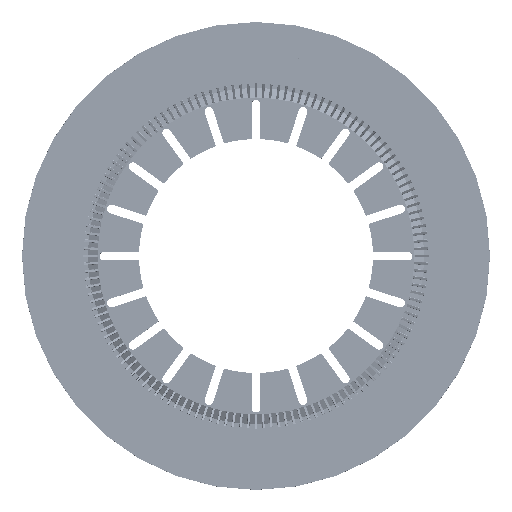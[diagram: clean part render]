
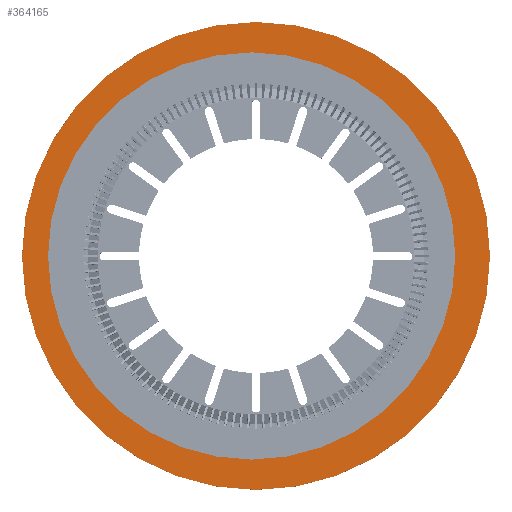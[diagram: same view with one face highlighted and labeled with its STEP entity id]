
A CAD part, top view. The second image highlights one B-rep face of the part: STEP entity #364165.
In plain terms, the highlighted planar face has unit normal (0, 0, 1).
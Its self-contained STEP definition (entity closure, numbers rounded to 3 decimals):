
#4433 = DIRECTION ( 'NONE',  ( 0., 0., -1. ) ) ;
#12232 = ORIENTED_EDGE ( 'NONE', *, *, #312015, .F. ) ;
#20385 = DIRECTION ( 'NONE',  ( 0., 0., -1. ) ) ;
#23510 = DIRECTION ( 'NONE',  ( 0., 0., 1. ) ) ;
#32041 = CARTESIAN_POINT ( 'NONE',  ( -24., 0., 2. ) ) ;
#34142 = DIRECTION ( 'NONE',  ( 0., 0., -1. ) ) ;
#41092 = AXIS2_PLACEMENT_3D ( 'NONE', #341871, #296233, #505738 ) ;
#62949 = VERTEX_POINT ( 'NONE', #447746 ) ;
#73023 = CIRCLE ( 'NONE', #210168, 23.5 ) ;
#78911 = VERTEX_POINT ( 'NONE', #32041 ) ;
#85320 = AXIS2_PLACEMENT_3D ( 'NONE', #302251, #20385, #259430 ) ;
#85745 = AXIS2_PLACEMENT_3D ( 'NONE', #490529, #4433, #87587 ) ;
#87587 = DIRECTION ( 'NONE',  ( -1., 0., 0. ) ) ;
#89156 = ORIENTED_EDGE ( 'NONE', *, *, #162399, .T. ) ;
#102297 = EDGE_CURVE ( 'NONE', #525851, #457156, #376578, .T. ) ;
#147280 = CARTESIAN_POINT ( 'NONE',  ( 27., 0., 2. ) ) ;
#162399 = EDGE_CURVE ( 'NONE', #62949, #78911, #418215, .T. ) ;
#167965 = ORIENTED_EDGE ( 'NONE', *, *, #473013, .T. ) ;
#184593 = PLANE ( 'NONE',  #212118 ) ;
#189893 = FACE_BOUND ( 'NONE', #524523, .T. ) ;
#210168 = AXIS2_PLACEMENT_3D ( 'NONE', #487846, #34142, #404573 ) ;
#212118 = AXIS2_PLACEMENT_3D ( 'NONE', #227572, #23510, #267857 ) ;
#227572 = CARTESIAN_POINT ( 'NONE',  ( 0., 27., 2. ) ) ;
#259430 = DIRECTION ( 'NONE',  ( -1., 0., 0. ) ) ;
#267857 = DIRECTION ( 'NONE',  ( 1., 0., 0. ) ) ;
#296233 = DIRECTION ( 'NONE',  ( 0., 0., -1. ) ) ;
#302251 = CARTESIAN_POINT ( 'NONE',  ( 0., 0., 2. ) ) ;
#312015 = EDGE_CURVE ( 'NONE', #457156, #525851, #360177, .T. ) ;
#337330 = CARTESIAN_POINT ( 'NONE',  ( -27., 0., 2. ) ) ;
#341871 = CARTESIAN_POINT ( 'NONE',  ( -0.5, 0., 2. ) ) ;
#360177 = CIRCLE ( 'NONE', #85745, 27. ) ;
#364165 = ADVANCED_FACE ( 'NONE', ( #189893, #434277 ), #184593, .T. ) ;
#376578 = CIRCLE ( 'NONE', #85320, 27. ) ;
#404573 = DIRECTION ( 'NONE',  ( -1., 0., 0. ) ) ;
#418215 = CIRCLE ( 'NONE', #41092, 23.5 ) ;
#434277 = FACE_OUTER_BOUND ( 'NONE', #462368, .T. ) ;
#447746 = CARTESIAN_POINT ( 'NONE',  ( 23., 0., 2. ) ) ;
#457156 = VERTEX_POINT ( 'NONE', #337330 ) ;
#462368 = EDGE_LOOP ( 'NONE', ( #12232, #517197 ) ) ;
#473013 = EDGE_CURVE ( 'NONE', #78911, #62949, #73023, .T. ) ;
#487846 = CARTESIAN_POINT ( 'NONE',  ( -0.5, 0., 2. ) ) ;
#490529 = CARTESIAN_POINT ( 'NONE',  ( 0., 0., 2. ) ) ;
#505738 = DIRECTION ( 'NONE',  ( -1., 0., 0. ) ) ;
#517197 = ORIENTED_EDGE ( 'NONE', *, *, #102297, .F. ) ;
#524523 = EDGE_LOOP ( 'NONE', ( #167965, #89156 ) ) ;
#525851 = VERTEX_POINT ( 'NONE', #147280 ) ;
